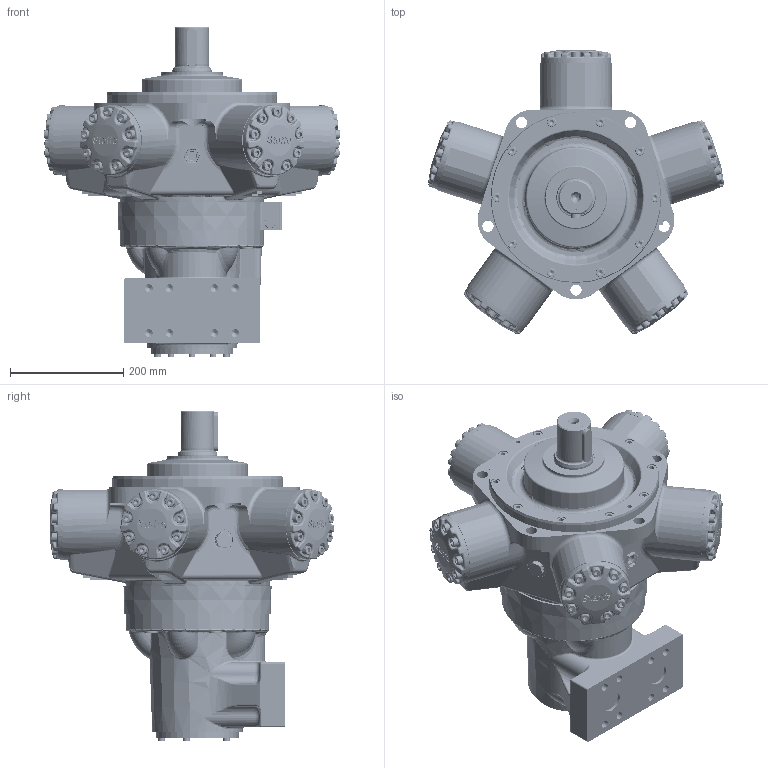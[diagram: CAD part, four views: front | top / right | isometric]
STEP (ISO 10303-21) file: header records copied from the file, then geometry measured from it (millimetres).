
FILE_DESCRIPTION(/* description */ (''),/* implementation_level */ '2;1');
FILE_NAME(/* name */ 'HMC080_P_XX_XX_SFM4_CS_82.stp',/* time_stamp */ '2025-02-19T08:54:41Z',/* author */ ('ccallanga'),/* organization */ (''),/* preprocessor_version */ 'ST-DEVELOPER v20',/* originating_system */ 'Autodesk Inventor 2024',/* authorisation */ '');
FILE_SCHEMA (('AUTOMOTIVE_DESIGN { 1 0 10303 214 3 1 1 }'));
Products named in the file (1): HMC080 WEBSITE ASSEMBLY_Simplify_1
Bounding box: 524.44 x 502.42 x 583.7 mm (x, y, z)
Volume: 32975411.9 mm3; surface area: 976122.6 mm2
Topology: 1 solids, 1 shells, 5227 faces, 12518 edges, 7333 vertices
Faces by surface type: bspline 1770, plane 1395, cylinder 1154, torus 527, sphere 198, cone 183
Full cylindrical faces by diameter (mm): 2.2 x4, 4 x1, 4.134 x4, 5.5 x4, 6.5 x3, 7 x3, 8.376 x2, 9.4 x4, 11.328 x1, 11.913 x5, 12 x4, 12.7 x5, 13.835 x8, 16 x55, 16.5 x45, 16.51 x1, 17 x10, 19 x1, 20 x5, 23.825 x5, 25 x2, 25.4 x5, 26.92 x2, 28.75 x1, 38 x2, 38.1 x3, 60.002 x1, 69.825 x1, 73.914 x1, 88.901 x1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
Entity records: 232150 total; most frequent: CARTESIAN_POINT 118749, ORIENTED_EDGE 24586, DIRECTION 19065, EDGE_CURVE 12293, AXIS2_PLACEMENT_3D 7490, VERTEX_POINT 7333, EDGE_LOOP 5512, STYLED_ITEM 5228
